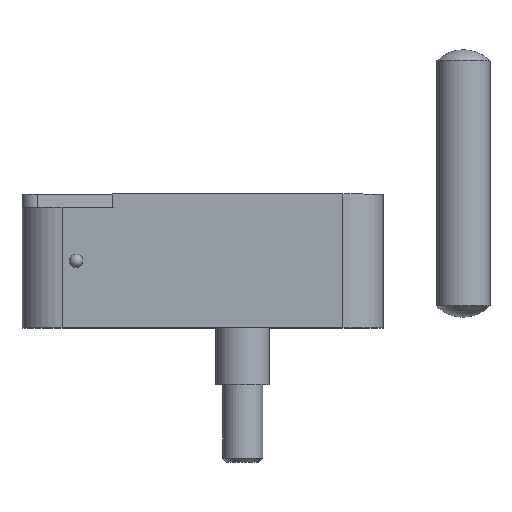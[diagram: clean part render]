
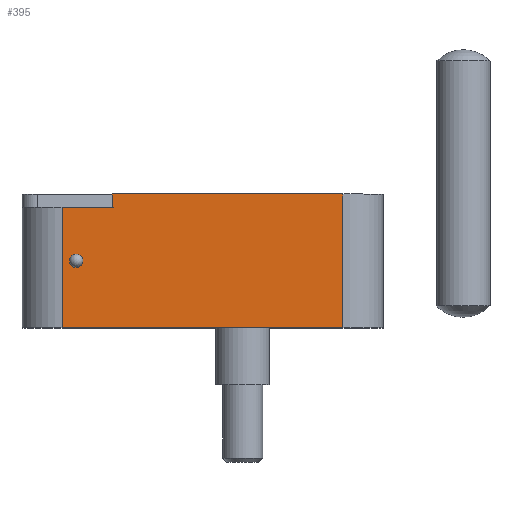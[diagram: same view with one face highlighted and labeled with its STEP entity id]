
A CAD part, top view. The second image highlights one B-rep face of the part: STEP entity #395.
In plain terms, the highlighted planar face has unit normal (0, 0, 1).
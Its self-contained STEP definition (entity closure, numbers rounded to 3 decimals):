
#395 = ADVANCED_FACE( '', ( #691, #692 ), #693, .F. );
#691 = FACE_BOUND( '', #1057, .T. );
#692 = FACE_OUTER_BOUND( '', #1058, .T. );
#693 = PLANE( '', #1059 );
#1057 = EDGE_LOOP( '', ( #2158 ) );
#1058 = EDGE_LOOP( '', ( #2159, #2160, #2161, #2162, #2163, #2164 ) );
#1059 = AXIS2_PLACEMENT_3D( '', #2165, #2166, #2167 );
#2158 = ORIENTED_EDGE( '', *, *, #2535, .T. );
#2159 = ORIENTED_EDGE( '', *, *, #2825, .F. );
#2160 = ORIENTED_EDGE( '', *, *, #2508, .F. );
#2161 = ORIENTED_EDGE( '', *, *, #2826, .T. );
#2162 = ORIENTED_EDGE( '', *, *, #2816, .T. );
#2163 = ORIENTED_EDGE( '', *, *, #2827, .F. );
#2164 = ORIENTED_EDGE( '', *, *, #2796, .F. );
#2165 = CARTESIAN_POINT( '', ( 6., 20., 16. ) );
#2166 = DIRECTION( '', ( 0., 0., -1. ) );
#2167 = DIRECTION( '', ( -1., 0., 0. ) );
#2508 = EDGE_CURVE( '', #2937, #2939, #2940, .T. );
#2535 = EDGE_CURVE( '', #2989, #2989, #2990, .T. );
#2796 = EDGE_CURVE( '', #3418, #3420, #3421, .T. );
#2816 = EDGE_CURVE( '', #3458, #3456, #3459, .T. );
#2825 = EDGE_CURVE( '', #2939, #3418, #3472, .T. );
#2826 = EDGE_CURVE( '', #2937, #3458, #3473, .T. );
#2827 = EDGE_CURVE( '', #3420, #3456, #3474, .T. );
#2937 = VERTEX_POINT( '', #3634 );
#2939 = VERTEX_POINT( '', #3636 );
#2940 = LINE( '', #3637, #3638 );
#2989 = VERTEX_POINT( '', #3698 );
#2990 = CIRCLE( '', #3699, 1. );
#3418 = VERTEX_POINT( '', #4279 );
#3420 = VERTEX_POINT( '', #4282 );
#3421 = LINE( '', #4283, #4284 );
#3456 = VERTEX_POINT( '', #4333 );
#3458 = VERTEX_POINT( '', #4335 );
#3459 = LINE( '', #4336, #4337 );
#3472 = LINE( '', #4356, #4357 );
#3473 = LINE( '', #4358, #4359 );
#3474 = LINE( '', #4360, #4361 );
#3634 = CARTESIAN_POINT( '', ( 6., 18., 16. ) );
#3636 = CARTESIAN_POINT( '', ( 13.5, 18., 16. ) );
#3637 = CARTESIAN_POINT( '', ( 6., 18., 16. ) );
#3638 = VECTOR( '', #4547, 1000. );
#3698 = CARTESIAN_POINT( '', ( 7.1, 10., 16. ) );
#3699 = AXIS2_PLACEMENT_3D( '', #4604, #4605, #4606 );
#4279 = CARTESIAN_POINT( '', ( 13.5, 20., 16. ) );
#4282 = CARTESIAN_POINT( '', ( 48., 20., 16. ) );
#4283 = CARTESIAN_POINT( '', ( 6., 20., 16. ) );
#4284 = VECTOR( '', #5081, 1000. );
#4333 = CARTESIAN_POINT( '', ( 48., 0., 16. ) );
#4335 = CARTESIAN_POINT( '', ( 6., 0., 16. ) );
#4336 = CARTESIAN_POINT( '', ( 6., 0., 16. ) );
#4337 = VECTOR( '', #5111, 1000. );
#4356 = CARTESIAN_POINT( '', ( 13.5, 20., 16. ) );
#4357 = VECTOR( '', #5124, 1000. );
#4358 = CARTESIAN_POINT( '', ( 6., 20., 16. ) );
#4359 = VECTOR( '', #5125, 1000. );
#4360 = CARTESIAN_POINT( '', ( 48., 20., 16. ) );
#4361 = VECTOR( '', #5126, 1000. );
#4547 = DIRECTION( '', ( 1., 0., 0. ) );
#4604 = CARTESIAN_POINT( '', ( 8.1, 10., 16. ) );
#4605 = DIRECTION( '', ( 0., 0., -1. ) );
#4606 = DIRECTION( '', ( -1., 0., 0. ) );
#5081 = DIRECTION( '', ( 1., 0., 0. ) );
#5111 = DIRECTION( '', ( 1., 0., 0. ) );
#5124 = DIRECTION( '', ( 0., 1., 0. ) );
#5125 = DIRECTION( '', ( 0., -1., 0. ) );
#5126 = DIRECTION( '', ( 0., -1., 0. ) );
